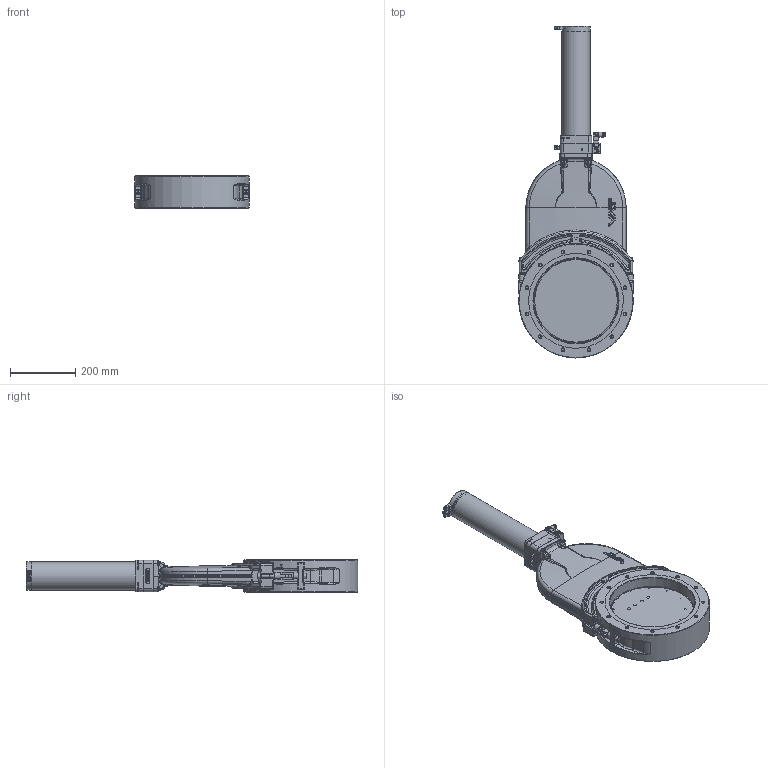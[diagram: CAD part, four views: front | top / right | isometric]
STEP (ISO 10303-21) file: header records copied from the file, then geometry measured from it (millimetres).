
FILE_DESCRIPTION(/* description */ (''),/* implementation_level */ '2;1');
FILE_NAME(/* name */ '1261551241_203.stp',/* time_stamp */ '2020-02-26T17:25:58+01:00',/* author */ (''),/* organization */ (''),/* preprocessor_version */ 'ST-DEVELOPER v16',/* originating_system */ 'SIEMENS PLM Software NX 11.0',/* authorisation */ '');
FILE_SCHEMA (('AP203_CONFIGURATION_CONTROLLED_3D_DESIGN_OF_MECHANICAL_PARTS_AND_ASSEMBLIES_MIM_LF { 1 0 10303 403 2 1 2}'));
Products named in the file (52): 211790.10_27630ID; 80477-01.1; N-7100-005_2.1; 92838-01_4.2; 80478-01.1; N-6195-007.2; 93115-01.1; 87105-01.1; 207307.11; 218101.4; 73662-01.1; 467882; 437235; 229422.2; 229421.3; 237905.1; 211376; 212199; 942765; 207308.10_27494ID; N-6013-469.1; 211141.6_27350ID; 211062_27355ID; 77379-01.1; N-6016-478.2; N-7557-016_1.1; N-7557-018.1; N-7557-016_2.1; N-6024-524.1; N-5018-005.1; 211397.2; 211398.4; N-6121-026.2; 211950.1; 211375.3; N-5019-823.1; N-6005-520.1; 211789.11_MODEL; 87090-R1.22_NX-ARRAGMNTunbetaetigt Hub 0mm (mit Feder); 581477_NX-ARRAGMNTZusammenstellungsZeichn =261,6 (STANGE unterdrueckt
) ...
Assembly tree (70 placements, depth 4):
  210570
    N-6005-520.1  x2
    N-5019-823.1  x4
    211400.11_NX-ARRAGMNTGelenkauge gestreckt  x2
      211375.3
      211950.1
      N-6121-026.2
      211398.4
      211397.2
    94800-r1.7_NX-ARRAGMNTKONFIG1
      N-5018-005.1  x2
      N-6024-524.1  x6
      N-7557-016_2.1
      N-7557-018.1
      N-7557-016_1.1
      N-7557-016_3.1_MODELNX-ARRAGMNTArrangement 1
        437235
        467882
    78855-r1.9_NX-ARRAGMNTMassbild, alle Innenteile unterdrueckt  x2
      N-6016-478.2
      78856-R1.3
        73662-01.1
      77379-01.1
    263431.17_MODEL
      211062_27355ID
    211142.11_MODEL
      211141.6_27350ID
    942644_MODELNX-ARRAGMNTCLOSE HOHL verriegelt (Massbild, unterdrüc
ktes Inneres)
      N-6013-469.1  x4
      207308.10_27494ID
      219358.3
        218101.4
      215485.5
        207307.11
      942765  x2
    211869  x2
      212199
      211376
    581477_NX-ARRAGMNTZusammenstellungsZeichn =261,6 (STANGE unterdrueckt
)
      237905.1
      229421.3
      87090-R1.22_NX-ARRAGMNTunbetaetigt Hub 0mm (mit Feder)  x2
        87105-01.1
        93115-01.1
        N-6195-007.2
        80478-01.1
        92838-01_4.2
        N-7100-005_2.1
        80477-01.1
      211789.11_MODEL
        211790.10_27630ID
      229422.2
Bounding box: 351.96 x 1017.4 x 100 mm (x, y, z)
Volume: 7812093.8 mm3; surface area: 1584057.9 mm2
Topology: 71 solids, 71 shells, 4132 faces, 10343 edges, 6481 vertices
Faces by surface type: plane 1642, bspline 980, cylinder 794, cone 281, extrusion 194, torus 171, sphere 68, revolution 2
Full cylindrical faces by diameter (mm): 1.875 x2, 2.115 x8, 2.475 x6, 2.5 x6, 2.56 x2, 2.575 x2, 3 x13, 3.2 x4, 3.3 x2, 3.4 x4, 3.5 x13, 4 x2, 4.1 x2, 4.2 x12, 4.22 x1, 4.3 x4, 4.7 x4, 5 x3, 5.4 x5, 5.5 x2, 5.6 x2, 5.65 x2, 5.7 x2, 5.8 x4, 6 x12, 6.475 x2, 6.6 x4, 6.8 x4, 6.98 x2, 7 x1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
Entity records: 143897 total; most frequent: CARTESIAN_POINT 58482, ORIENTED_EDGE 16694, DIRECTION 13125, EDGE_CURVE 8347, VERTEX_POINT 5486, AXIS2_PLACEMENT_3D 5073, EDGE_LOOP 4308, ADVANCED_FACE 3570
